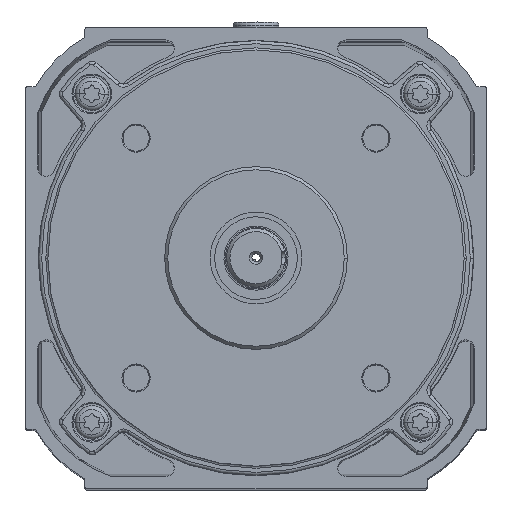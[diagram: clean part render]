
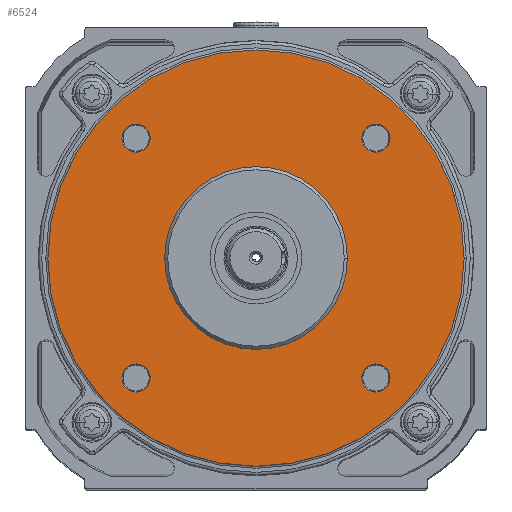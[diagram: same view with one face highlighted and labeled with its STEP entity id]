
A CAD part, top view. The second image highlights one B-rep face of the part: STEP entity #6524.
In plain terms, the highlighted planar face has unit normal (0, 0, 1).
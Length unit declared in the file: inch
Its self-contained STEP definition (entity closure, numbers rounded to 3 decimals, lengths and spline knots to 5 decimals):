
#4432 = VERTEX_POINT ( 'NONE', #25504 ) ;
#4434 = EDGE_CURVE ( 'NONE', #4432, #4435, #25502, .T. ) ;
#4435 = VERTEX_POINT ( 'NONE', #25497 ) ;
#4444 = EDGE_CURVE ( 'NONE', #4445, #4446, #25547, .T. ) ;
#4445 = VERTEX_POINT ( 'NONE', #25542 ) ;
#4446 = VERTEX_POINT ( 'NONE', #25541 ) ;
#4481 = VERTEX_POINT ( 'NONE', #25591 ) ;
#4483 = EDGE_CURVE ( 'NONE', #4481, #4484, #25590, .T. ) ;
#4484 = VERTEX_POINT ( 'NONE', #25585 ) ;
#4485 = VERTEX_POINT ( 'NONE', #25584 ) ;
#4487 = EDGE_CURVE ( 'NONE', #4485, #4489, #25643, .T. ) ;
#4489 = VERTEX_POINT ( 'NONE', #25637 ) ;
#4524 = EDGE_CURVE ( 'NONE', #4525, #4526, #25704, .T. ) ;
#4525 = VERTEX_POINT ( 'NONE', #25699 ) ;
#4526 = VERTEX_POINT ( 'NONE', #25698 ) ;
#4534 = VERTEX_POINT ( 'NONE', #25686 ) ;
#4536 = EDGE_CURVE ( 'NONE', #4534, #4537, #25685, .T. ) ;
#4537 = VERTEX_POINT ( 'NONE', #25679 ) ;
#6490 = EDGE_CURVE ( 'NONE', #4484, #4481, #14721, .T. ) ;
#6503 = EDGE_CURVE ( 'NONE', #4537, #4534, #15434, .T. ) ;
#6510 = EDGE_CURVE ( 'NONE', #4526, #4525, #15490, .T. ) ;
#6523 = EDGE_CURVE ( 'NONE', #4435, #4432, #15465, .T. ) ;
#6524 = ADVANCED_FACE ( 'NONE', ( #15467, #15460, #15459, #15458, #15457, #15456 ), #15455, .F. ) ;
#6525 = EDGE_LOOP ( 'NONE', ( #6526, #6527 ) ) ;
#6526 = ORIENTED_EDGE ( 'NONE', *, *, #6523, .F. ) ;
#6527 = ORIENTED_EDGE ( 'NONE', *, *, #4434, .F. ) ;
#6528 = EDGE_LOOP ( 'NONE', ( #6529, #6530 ) ) ;
#6529 = ORIENTED_EDGE ( 'NONE', *, *, #6535, .F. ) ;
#6530 = ORIENTED_EDGE ( 'NONE', *, *, #4487, .F. ) ;
#6532 = EDGE_LOOP ( 'NONE', ( #6533, #6534 ) ) ;
#6533 = ORIENTED_EDGE ( 'NONE', *, *, #6490, .F. ) ;
#6534 = ORIENTED_EDGE ( 'NONE', *, *, #4483, .F. ) ;
#6535 = EDGE_CURVE ( 'NONE', #4489, #4485, #15521, .T. ) ;
#6584 = EDGE_LOOP ( 'NONE', ( #6585, #6586 ) ) ;
#6585 = ORIENTED_EDGE ( 'NONE', *, *, #6503, .F. ) ;
#6586 = ORIENTED_EDGE ( 'NONE', *, *, #4536, .F. ) ;
#6587 = EDGE_LOOP ( 'NONE', ( #6588, #6590 ) ) ;
#6588 = ORIENTED_EDGE ( 'NONE', *, *, #6589, .T. ) ;
#6589 = EDGE_CURVE ( 'NONE', #4446, #4445, #15630, .T. ) ;
#6590 = ORIENTED_EDGE ( 'NONE', *, *, #4444, .T. ) ;
#6591 = EDGE_LOOP ( 'NONE', ( #6592, #6593 ) ) ;
#6592 = ORIENTED_EDGE ( 'NONE', *, *, #4524, .F. ) ;
#6593 = ORIENTED_EDGE ( 'NONE', *, *, #6510, .F. ) ;
#14721 = CIRCLE ( 'NONE', #14930, 0.135 ) ;
#14929 = CARTESIAN_POINT ( 'NONE',  ( 1.14905, 1.14905, 0.335 ) ) ;
#14930 = AXIS2_PLACEMENT_3D ( 'NONE', #14929, #14935, #14934 ) ;
#14934 = DIRECTION ( 'NONE',  ( 1., 0., 0. ) ) ;
#14935 = DIRECTION ( 'NONE',  ( 0., 0., 1. ) ) ;
#15422 = CARTESIAN_POINT ( 'NONE',  ( 0., 0., 0.335 ) ) ;
#15430 = DIRECTION ( 'NONE',  ( 1., 0., 0. ) ) ;
#15431 = DIRECTION ( 'NONE',  ( 0., 0., 1. ) ) ;
#15432 = CARTESIAN_POINT ( 'NONE',  ( -1.14905, 1.14905, 0.335 ) ) ;
#15433 = AXIS2_PLACEMENT_3D ( 'NONE', #15432, #15431, #15430 ) ;
#15434 = CIRCLE ( 'NONE', #15433, 0.135 ) ;
#15455 = PLANE ( 'NONE',  #15526 ) ;
#15456 = FACE_BOUND ( 'NONE', #6591, .T. ) ;
#15457 = FACE_OUTER_BOUND ( 'NONE', #6587, .T. ) ;
#15458 = FACE_BOUND ( 'NONE', #6584, .T. ) ;
#15459 = FACE_BOUND ( 'NONE', #6532, .T. ) ;
#15460 = FACE_BOUND ( 'NONE', #6528, .T. ) ;
#15462 = DIRECTION ( 'NONE',  ( 1., 0., 0. ) ) ;
#15463 = DIRECTION ( 'NONE',  ( 0., 0., 1. ) ) ;
#15464 = AXIS2_PLACEMENT_3D ( 'NONE', #15472, #15463, #15462 ) ;
#15465 = CIRCLE ( 'NONE', #15464, 0.135 ) ;
#15467 = FACE_BOUND ( 'NONE', #6525, .T. ) ;
#15472 = CARTESIAN_POINT ( 'NONE',  ( -1.14905, -1.14905, 0.335 ) ) ;
#15486 = DIRECTION ( 'NONE',  ( -1., 0., 0. ) ) ;
#15488 = DIRECTION ( 'NONE',  ( 0., 0., 1. ) ) ;
#15489 = AXIS2_PLACEMENT_3D ( 'NONE', #15422, #15488, #15486 ) ;
#15490 = CIRCLE ( 'NONE', #15489, 0.875 ) ;
#15516 = DIRECTION ( 'NONE',  ( 1., 0., 0. ) ) ;
#15517 = DIRECTION ( 'NONE',  ( 0., 0., 1. ) ) ;
#15520 = AXIS2_PLACEMENT_3D ( 'NONE', #15528, #15517, #15516 ) ;
#15521 = CIRCLE ( 'NONE', #15520, 0.135 ) ;
#15523 = DIRECTION ( 'NONE',  ( -1., 0., 0. ) ) ;
#15524 = DIRECTION ( 'NONE',  ( 0., 0., -1. ) ) ;
#15525 = CARTESIAN_POINT ( 'NONE',  ( 0., 0., 0.335 ) ) ;
#15526 = AXIS2_PLACEMENT_3D ( 'NONE', #15525, #15524, #15523 ) ;
#15528 = CARTESIAN_POINT ( 'NONE',  ( 1.14905, -1.14905, 0.335 ) ) ;
#15625 = DIRECTION ( 'NONE',  ( -1., 0., 0. ) ) ;
#15626 = DIRECTION ( 'NONE',  ( 0., 0., 1. ) ) ;
#15627 = CARTESIAN_POINT ( 'NONE',  ( 0., 0., 0.335 ) ) ;
#15628 = AXIS2_PLACEMENT_3D ( 'NONE', #15627, #15626, #15625 ) ;
#15630 = CIRCLE ( 'NONE', #15628, 1.99391 ) ;
#25497 = CARTESIAN_POINT ( 'NONE',  ( -1.01405, -1.14905, 0.335 ) ) ;
#25498 = DIRECTION ( 'NONE',  ( 1., 0., 0. ) ) ;
#25499 = DIRECTION ( 'NONE',  ( 0., 0., 1. ) ) ;
#25500 = CARTESIAN_POINT ( 'NONE',  ( -1.14905, -1.14905, 0.335 ) ) ;
#25501 = AXIS2_PLACEMENT_3D ( 'NONE', #25500, #25499, #25498 ) ;
#25502 = CIRCLE ( 'NONE', #25501, 0.135 ) ;
#25504 = CARTESIAN_POINT ( 'NONE',  ( -1.28405, -1.14905, 0.335 ) ) ;
#25541 = CARTESIAN_POINT ( 'NONE',  ( 1.99391, 0., 0.335 ) ) ;
#25542 = CARTESIAN_POINT ( 'NONE',  ( -1.99391, 0., 0.335 ) ) ;
#25543 = DIRECTION ( 'NONE',  ( -1., 0., 0. ) ) ;
#25544 = DIRECTION ( 'NONE',  ( 0., 0., 1. ) ) ;
#25545 = CARTESIAN_POINT ( 'NONE',  ( 0., 0., 0.335 ) ) ;
#25546 = AXIS2_PLACEMENT_3D ( 'NONE', #25545, #25544, #25543 ) ;
#25547 = CIRCLE ( 'NONE', #25546, 1.99391 ) ;
#25584 = CARTESIAN_POINT ( 'NONE',  ( 1.01405, -1.14905, 0.335 ) ) ;
#25585 = CARTESIAN_POINT ( 'NONE',  ( 1.28405, 1.14905, 0.335 ) ) ;
#25586 = DIRECTION ( 'NONE',  ( 1., 0., 0. ) ) ;
#25587 = DIRECTION ( 'NONE',  ( 0., 0., 1. ) ) ;
#25588 = CARTESIAN_POINT ( 'NONE',  ( 1.14905, 1.14905, 0.335 ) ) ;
#25589 = AXIS2_PLACEMENT_3D ( 'NONE', #25588, #25587, #25586 ) ;
#25590 = CIRCLE ( 'NONE', #25589, 0.135 ) ;
#25591 = CARTESIAN_POINT ( 'NONE',  ( 1.01405, 1.14905, 0.335 ) ) ;
#25637 = CARTESIAN_POINT ( 'NONE',  ( 1.28405, -1.14905, 0.335 ) ) ;
#25639 = DIRECTION ( 'NONE',  ( 1., 0., 0. ) ) ;
#25640 = DIRECTION ( 'NONE',  ( 0., 0., 1. ) ) ;
#25641 = CARTESIAN_POINT ( 'NONE',  ( 1.14905, -1.14905, 0.335 ) ) ;
#25642 = AXIS2_PLACEMENT_3D ( 'NONE', #25641, #25640, #25639 ) ;
#25643 = CIRCLE ( 'NONE', #25642, 0.135 ) ;
#25679 = CARTESIAN_POINT ( 'NONE',  ( -1.01405, 1.14905, 0.335 ) ) ;
#25681 = DIRECTION ( 'NONE',  ( 1., 0., 0. ) ) ;
#25682 = DIRECTION ( 'NONE',  ( 0., 0., 1. ) ) ;
#25683 = CARTESIAN_POINT ( 'NONE',  ( -1.14905, 1.14905, 0.335 ) ) ;
#25684 = AXIS2_PLACEMENT_3D ( 'NONE', #25683, #25682, #25681 ) ;
#25685 = CIRCLE ( 'NONE', #25684, 0.135 ) ;
#25686 = CARTESIAN_POINT ( 'NONE',  ( -1.28405, 1.14905, 0.335 ) ) ;
#25698 = CARTESIAN_POINT ( 'NONE',  ( -0.875, 0., 0.335 ) ) ;
#25699 = CARTESIAN_POINT ( 'NONE',  ( 0.875, 0., 0.335 ) ) ;
#25700 = DIRECTION ( 'NONE',  ( -1., 0., 0. ) ) ;
#25701 = DIRECTION ( 'NONE',  ( 0., 0., 1. ) ) ;
#25702 = CARTESIAN_POINT ( 'NONE',  ( 0., 0., 0.335 ) ) ;
#25703 = AXIS2_PLACEMENT_3D ( 'NONE', #25702, #25701, #25700 ) ;
#25704 = CIRCLE ( 'NONE', #25703, 0.875 ) ;
